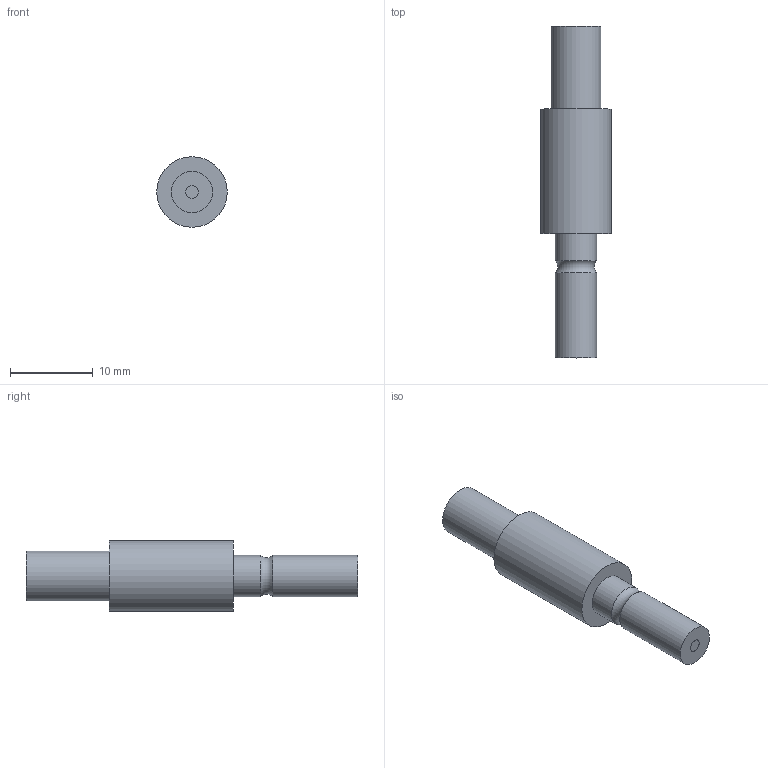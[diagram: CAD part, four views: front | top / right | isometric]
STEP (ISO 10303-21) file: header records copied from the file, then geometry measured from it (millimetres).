
FILE_DESCRIPTION(/* description */ (''),/* implementation_level */ '2;1');
FILE_NAME(/* name */ '//sv004/特品事業部/特品共通フォルダ/☆社外用データテスト/01_製品関連/0121_ライトガイド関連/3D図面/モニターファイバー共通受光部.step',/* time_stamp */ '2022-09-27T14:44:54+09:00',/* author */ (''),/* organization */ (''),/* preprocessor_version */ 'ST-DEVELOPER v19',/* originating_system */ 'Autodesk Translation Framework v11.7.0.108',/* authorisation */ '');
FILE_SCHEMA (('AUTOMOTIVE_DESIGN { 1 0 10303 214 3 1 1 }'));
Length unit declared in the file: millimetre
Products named in the file (1): モニターファイバー共通受光部
Bounding box: 8.5 x 40 x 8.5 mm (x, y, z)
Volume: 1424 mm3; surface area: 1372.3 mm2
Topology: 4 solids, 4 shells, 18 faces, 25 edges, 16 vertices
Faces by surface type: plane 9, cylinder 8, torus 1
Full cylindrical faces by diameter (mm): 1.5 x4, 5 x2, 6 x1, 8.5 x1
Entity records: 428 total; most frequent: DIRECTION 80, CARTESIAN_POINT 60, ORIENTED_EDGE 50, AXIS2_PLACEMENT_3D 36, EDGE_CURVE 25, EDGE_LOOP 23, FACE_OUTER_BOUND 18, ADVANCED_FACE 18
